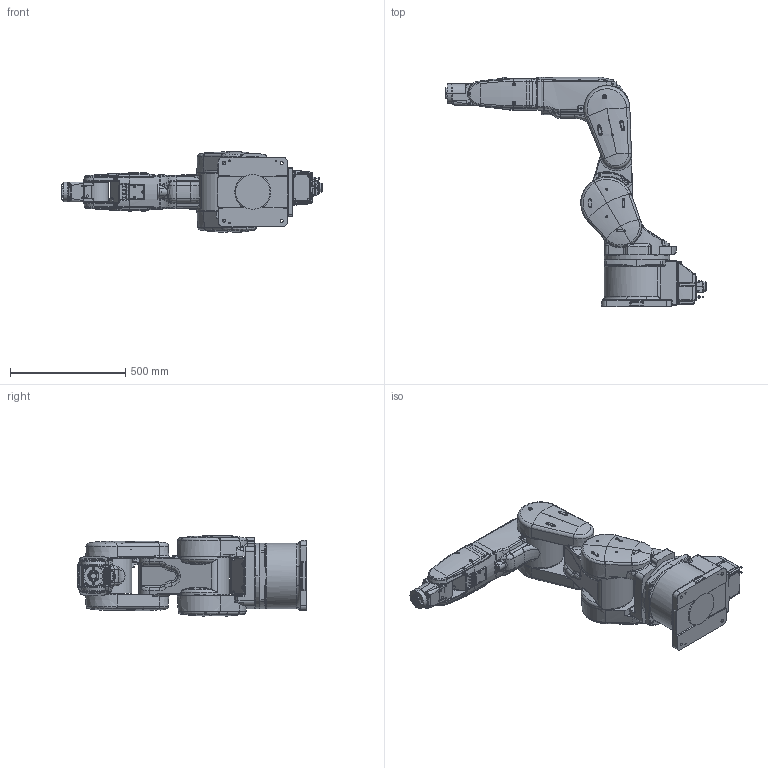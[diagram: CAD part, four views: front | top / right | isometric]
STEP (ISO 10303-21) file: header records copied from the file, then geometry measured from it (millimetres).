
FILE_DESCRIPTION((''),'2;1');
FILE_NAME('RV-13FR-SH_ASM','2017-05-25T',('PC32302'),(''),'PRO/ENGINEER BY PARAMETRIC TECHNOLOGY CORPORATION, 2014310','PRO/ENGINEER BY PARAMETRIC TECHNOLOGY CORPORATION, 2014310','');
FILE_SCHEMA(('CONFIG_CONTROL_DESIGN'));
Length unit declared in the file: millimetre
Products named in the file (9): RV-13FR-SH_SKELTON; RV-13FR_BASE_01; RV-13F_SHOULDER_02; RV-13F_NO1ARM_03; RV-13F_ELBOW_04; RV-13F_NO2ARM_05; RV-13F-SH_WRIST_06; RV-13F-SH_HAND_FLANGE_07; RV-13FR-SH_ASM
Assembly tree (8 placements, depth 2):
  RV-13FR-SH_ASM
    RV-13FR-SH_SKELTON
    RV-13FR_BASE_01
    RV-13F_SHOULDER_02
    RV-13F_NO1ARM_03
    RV-13F_ELBOW_04
    RV-13F_NO2ARM_05
    RV-13F-SH_WRIST_06
    RV-13F-SH_HAND_FLANGE_07
Bounding box: 1132.5 x 997.11 x 348.47 mm (x, y, z)
Volume: 67852906 mm3; surface area: 2339881.8 mm2
Topology: 7 solids, 7 shells, 3496 faces, 8766 edges, 5517 vertices
Faces by surface type: cylinder 1263, plane 1034, bspline 624, torus 279, cone 247, sphere 45, extrusion 2, revolution 2
Entity records: 234154 total; most frequent: CARTESIAN_POINT 155183, ORIENTED_EDGE 17498, DIRECTION 15071, EDGE_CURVE 8749, AXIS2_PLACEMENT_3D 5927, VERTEX_POINT 5517, EDGE_LOOP 3786, FACE_OUTER_BOUND 3496
